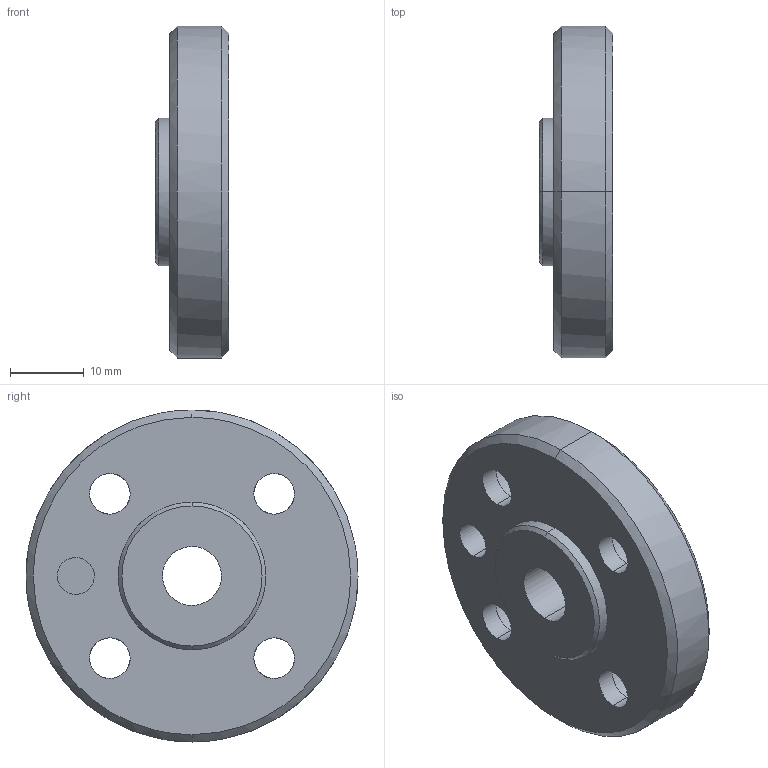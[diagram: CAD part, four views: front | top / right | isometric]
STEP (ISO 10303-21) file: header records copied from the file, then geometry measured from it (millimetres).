
FILE_DESCRIPTION((''),'2;1');
FILE_NAME('','2019-11-21T13:56:44',(''),(''),'','CADfix','');
FILE_SCHEMA(('AUTOMOTIVE_DESIGN { 1 0 10303 214 1 1 1 1 }'));
Length unit declared in the file: millimetre
Bounding box: 10 x 45 x 45 mm (x, y, z)
Volume: 10618.3 mm3; surface area: 5400.1 mm2
Topology: 1 solids, 1 shells, 56 faces, 198 edges, 156 vertices
Faces by surface type: bspline 56
Entity records: 2532 total; most frequent: CARTESIAN_POINT 1496, ORIENTED_EDGE 396, EDGE_CURVE 198, VERTEX_POINT 156, EDGE_LOOP 78, FACE_OUTER_BOUND 56, ADVANCED_FACE 56, QUASI_UNIFORM_CURVE 42
